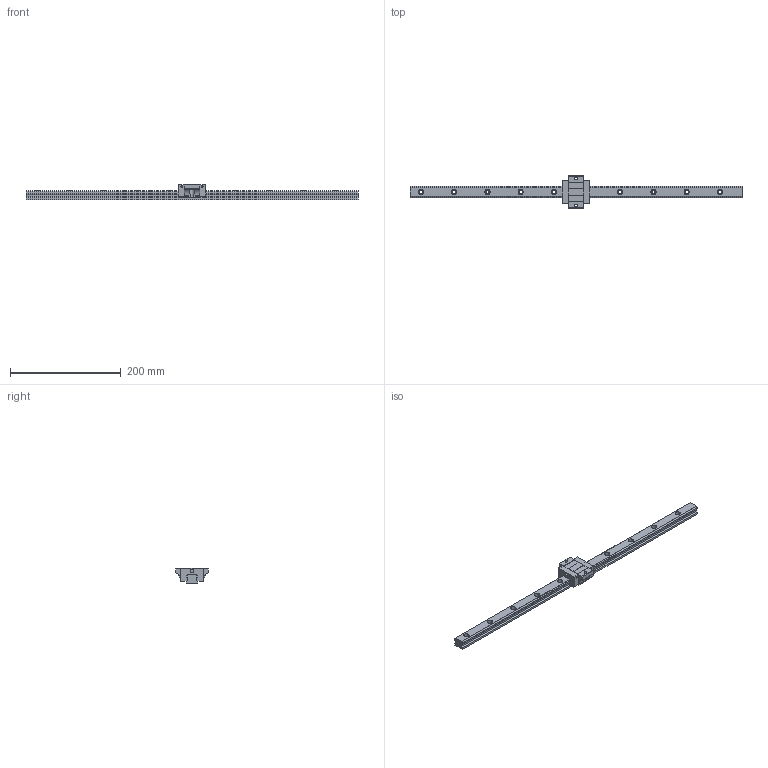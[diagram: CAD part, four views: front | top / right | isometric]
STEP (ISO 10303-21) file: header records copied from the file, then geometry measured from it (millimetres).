
FILE_DESCRIPTION (( 'STEP AP203' ), '1' );
FILE_NAME ('TRS20FS-XN.STEP', '2024-05-22T07:14:18', ( '' ), ( '' ), 'SwSTEP 2.0', 'SolidWorks 2022', '' );
FILE_SCHEMA (( 'CONFIG_CONTROL_DESIGN' ));
Length unit declared in the file: millimetre
Products named in the file (1): TRS20FS-XN
Bounding box: 600 x 59 x 28 mm (x, y, z)
Volume: 208619 mm3; surface area: 60462.3 mm2
Topology: 2 solids, 2 shells, 224 faces, 596 edges, 388 vertices
Faces by surface type: cylinder 116, plane 104, sphere 4
Entity records: 7263 total; most frequent: CARTESIAN_POINT 1421, DIRECTION 1238, ORIENTED_EDGE 1184, EDGE_CURVE 592, AXIS2_PLACEMENT_3D 441, VERTEX_POINT 388, VECTOR 356, LINE 356
